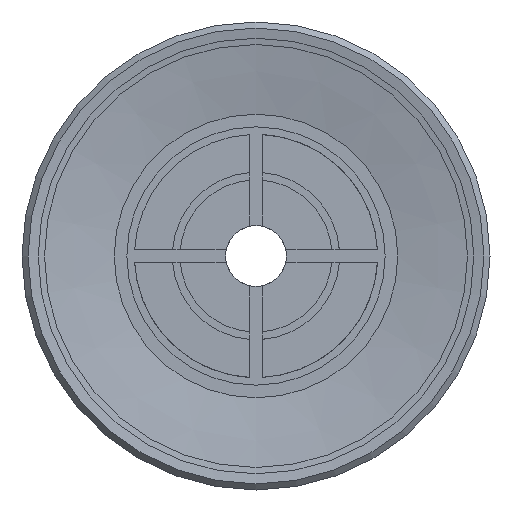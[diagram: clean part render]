
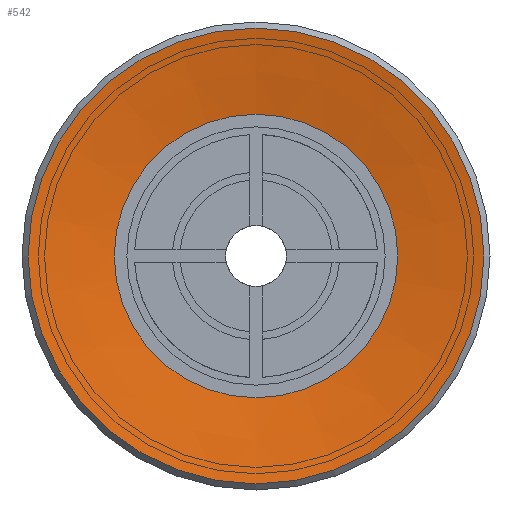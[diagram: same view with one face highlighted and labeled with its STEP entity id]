
A CAD part, front view. The second image highlights one B-rep face of the part: STEP entity #542.
In plain terms, the highlighted conical face has half-angle 80 degrees and reference radius 4.664 mm.
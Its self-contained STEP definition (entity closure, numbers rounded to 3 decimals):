
#542=ADVANCED_FACE('',(#849,#850),#851,.F.);
#849=FACE_BOUND('',#1290,.T.);
#850=FACE_OUTER_BOUND('',#1291,.T.);
#851=CONICAL_SURFACE('',#1292,4.664,1.396);
#1290=EDGE_LOOP('',(#2317));
#1291=EDGE_LOOP('',(#2318));
#1292=AXIS2_PLACEMENT_3D('',#2319,#2320,#2321);
#2317=ORIENTED_EDGE('',*,*,#3123,.F.);
#2318=ORIENTED_EDGE('',*,*,#3125,.T.);
#2319=CARTESIAN_POINT('',(0.0,0.5,0.0));
#2320=DIRECTION('',(-0.0,-1.0,0.));
#2321=DIRECTION('',(0.0,0.,-1.0));
#3123=EDGE_CURVE('',#3595,#3595,#3596,.T.);
#3125=EDGE_CURVE('',#3598,#3598,#3599,.T.);
#3595=VERTEX_POINT('',#4553);
#3596=CIRCLE('',#4554,4.664);
#3598=VERTEX_POINT('',#4556);
#3599=CIRCLE('',#4557,7.5);
#4553=CARTESIAN_POINT('',(0.0,0.5,-4.664));
#4554=AXIS2_PLACEMENT_3D('',#5457,#5458,#5459);
#4556=CARTESIAN_POINT('',(0.0,0.,-7.5));
#4557=AXIS2_PLACEMENT_3D('',#5463,#5464,#5465);
#5457=CARTESIAN_POINT('',(0.0,0.5,0.0));
#5458=DIRECTION('',(0.0,-1.0,0.));
#5459=DIRECTION('',(0.0,0.,-1.0));
#5463=CARTESIAN_POINT('',(0.0,0.0,0.0));
#5464=DIRECTION('',(0.0,-1.0,0.));
#5465=DIRECTION('',(0.0,0.,-1.0));
